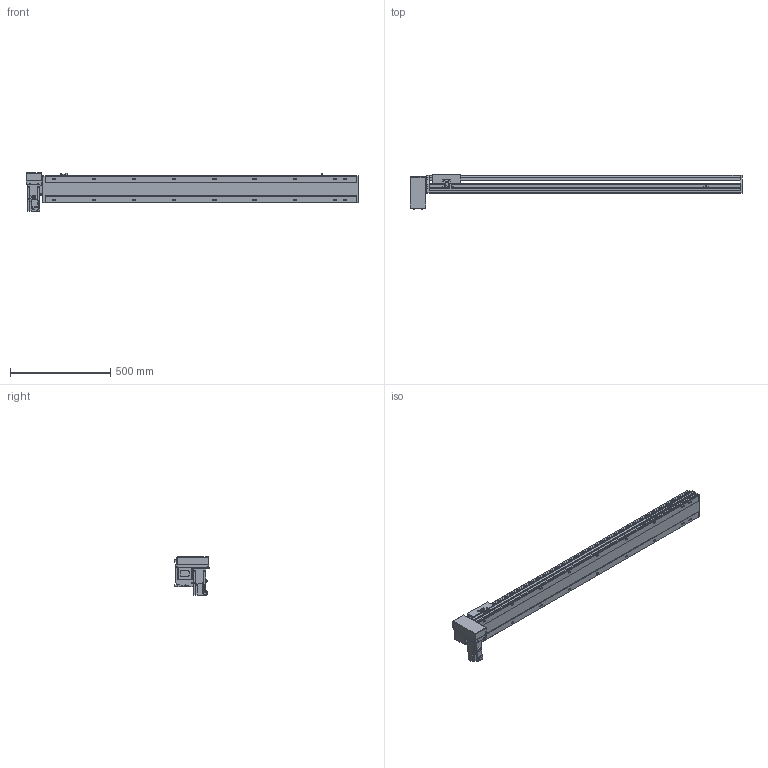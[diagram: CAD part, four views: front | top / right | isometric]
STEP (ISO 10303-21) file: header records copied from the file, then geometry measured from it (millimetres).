
FILE_DESCRIPTION( ( 'STEP AP214' ), '1' );
FILE_NAME( 'x:/temp/worker_6/temp/exporttempdir_5396_175_BR1aL/format_0/PBS140S-P40-S1300-RD-T40-C1-N(0).stp', '2022-06-09T00:43:32', ( 'License CC BY-ND 4.0' ), ( 'CADENAS' ), ' ', 'PARTsolutions', ' ' );
FILE_SCHEMA( ( 'AUTOMOTIVE_DESIGN { 1 0 10303 214 1 1 1 1 }' ) );
Length unit declared in the file: millimetre
Products named in the file (7): PBS140S-P40-S1300-RD-T40-C1-N(0); _PBS140S-S1300()_body; _PBS140ST-RD_motors; _T40-p1; _PBS140S_sliser; _PBS140S_plant; _PBS140S_sensor
Assembly tree (8 placements, depth 2):
  PBS140S-P40-S1300-RD-T40-C1-N(0)
    _PBS140S-S1300()_body
    _PBS140ST-RD_motors
    _T40-p1
    _PBS140S_sliser
    _PBS140S_plant
    _PBS140S_sensor  x3
Bounding box: 1654 x 172.5 x 189.7 mm (x, y, z)
Volume: 8403989.8 mm3; surface area: 1443294.9 mm2
Topology: 8 solids, 8 shells, 1115 faces, 2951 edges, 1931 vertices
Faces by surface type: plane 708, cylinder 353, cone 44, sphere 8, torus 2
Full cylindrical faces by diameter (mm): 3.242 x4, 4 x2, 4.134 x4, 4.4 x8, 4.5 x2, 4.8 x4, 4.917 x26, 5.5 x7, 6 x2, 7 x20, 7.5 x8, 8 x12, 8.5 x4, 10.5 x18, 14 x1, 30 x2, 50 x2
Entity records: 40978 total; most frequent: CARTESIAN_POINT 6574, DIRECTION 5418, ORIENTED_EDGE 5122, EDGE_CURVE 2561, AXIS2_PLACEMENT_3D 1889, VERTEX_POINT 1777, LINE 1640, VECTOR 1640
